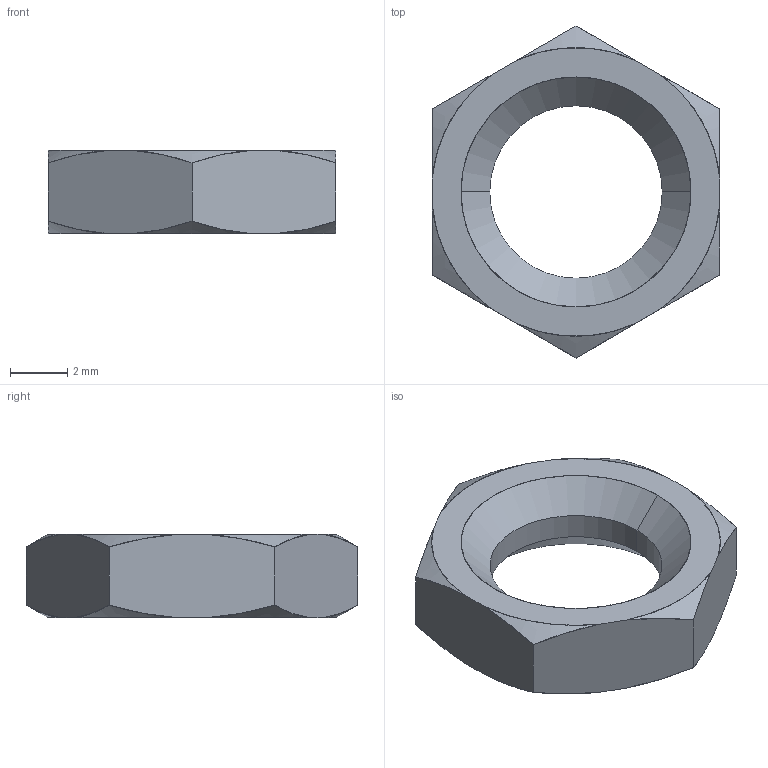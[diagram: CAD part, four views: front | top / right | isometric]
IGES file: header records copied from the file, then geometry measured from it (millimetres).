
Start section: SolidWorks IGES file using analytic representation for surfaces
Global section: file name: C:\Users\liam_\OneDrive\Desktop\Work\Mat Davis Pending 20181125\automotion\P SERIES\P0307.ZP_v2\P0307.ZP_v2_20181215_IGES\P0307.060-ZP.igs; native system: SolidWorks 2017; preprocessor: SolidWorks 2017; author: liam_; date: 181215.154832; units: millimetre
Bounding box: 10 x 11.55 x 2.9 mm (x, y, z)
Surface area: 244.8 mm2 (no closed solid volume)
Topology: 0 solids, 0 shells, 26 faces, 304 edges, 304 vertices
Faces by surface type: revolution 18, bspline 8
